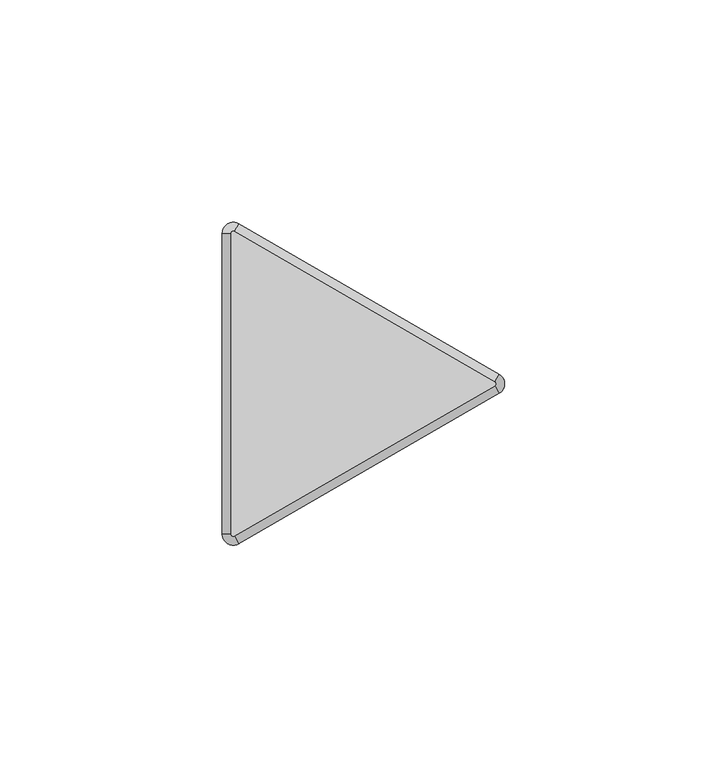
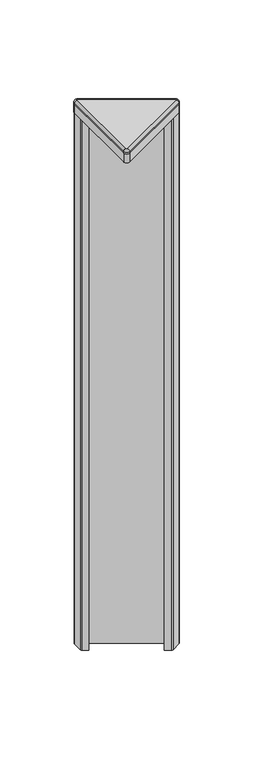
"""IFC4 building model written with IfcOpenShell, lengths in millimetres: furniture geometry, Steelcase - Answer Solution - Panel - 120deg Change-of-Height Trim - Thin : V Corner - 18H for 84H App."""

from ifc_helpers import new_model, si_unit, point, frame, frame_2d, origin, place, context, project, spatial, polyline, circle_curve, ellipse_curve, trimmed, segment, composite_curve, outline, extrude, source, transform, mapped, element, save
from ifc_brep_helpers import plane_surface, cylinder_surface, revolved_surface, advanced_brep


def furniture_275afc60(model_context):
    return source(origin(), model_context, "Body", "SolidModel", [
        advanced_brep(
        [(-10.518645, -37.3335529, 2138.0628978), (-14.2052101, -35.2051135, 2138.0628978), (-14.2052101, -35.2051135, 2137.1164663), (-10.518645, -37.3335529, 2137.1164663), (-11.46175, -35.7000471, 2139.95), (-12.319, -35.2051135, 2139.95), (-11.46175, -35.7000471, 2137.1164663), (-12.319, -35.2051135, 2137.1164663), (48.0429908, -3.5229767, 2137.1164663), (48.0429908, -3.5229767, 2138.0628978), (47.0998858, -1.8894709, 2139.95), (47.0998858, -1.8894709, 2137.1164663), (48.0429908, 0.733902, 2138.0628978), (48.0429908, 0.733902, 2137.1164663), (47.0998858, -0.8996038, 2139.95), (47.0998858, -0.8996038, 2137.1164663), (-10.518645, 34.5444782, 2137.1164663), (-14.2052101, 32.4160388, 2137.1164663), (-11.46175, 32.9109723, 2137.1164663), (-12.319, 32.4160388, 2137.1164663), (-10.518645, 34.5444782, 2138.0628978), (-11.46175, 32.9109723, 2139.95), (-14.2052101, 32.4160388, 2138.0628978), (-12.319, 32.4160388, 2139.95)],
        [
            (0, 1, circle_curve(frame((-11.7475, -35.2051135, 2138.0628978), z_axis=(0.0, 0.0, -1.0), x_axis=(-1.0, 0.0, 0.0)), 2.4577101)),
            (1, 2),
            (2, 3, circle_curve(frame((-11.7475, -35.2051135, 2137.1164663), z_axis=(0.0, 0.0, 1.0), x_axis=(-1.0, 0.0, 0.0)), 2.4577101)),
            (3, 0),
            (4, 5, circle_curve(frame((-11.7475, -35.2051135, 2139.95), z_axis=(0.0, 0.0, -1.0), x_axis=(-1.0, 0.0, 0.0)), 0.5715)),
            (5, 1, circle_curve(frame((-12.3181076, -35.2051135, 2138.0628978), z_axis=(0.0, -1.0, 0.0), x_axis=(1.0, 0.0, 0.0)), 1.8871024)),
            (0, 4, circle_curve(frame((-11.4621962, -35.6992743, 2138.0628978), z_axis=(-0.8660254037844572, -0.49999999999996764, 0.0), x_axis=(-0.49999999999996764, 0.8660254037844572, 0.0)), 1.8871024)),
            (6, 7, circle_curve(frame((-11.7475, -35.2051135, 2137.1164663), z_axis=(0.0, 0.0, -1.0), x_axis=(-1.0, 0.0, 0.0)), 0.5715)),
            (7, 5),
            (4, 6),
            (3, 8),
            (8, 9),
            (9, 0),
            (9, 10, circle_curve(frame((47.0994396, -1.8886981, 2138.0628978), z_axis=(-0.8660254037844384, -0.5000000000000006, 0.0), x_axis=(-0.5000000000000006, 0.8660254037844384, 0.0)), 1.8871024)),
            (10, 4),
            (10, 11),
            (11, 6),
            (12, 9, circle_curve(frame((46.8141358, -1.3945374, 2138.0628978), z_axis=(0.0, 0.0, -1.0), x_axis=(0.4999999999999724, -0.8660254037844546, 0.0)), 2.4577101)),
            (8, 13, circle_curve(frame((46.8141358, -1.3945374, 2137.1164663), z_axis=(0.0, 0.0, 1.0), x_axis=(0.4999999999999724, -0.8660254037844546, 0.0)), 2.4577101)),
            (13, 12),
            (14, 10, circle_curve(frame((46.8141358, -1.3945374, 2139.95), z_axis=(0.0, 0.0, -1.0), x_axis=(0.4999999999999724, -0.8660254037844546, 0.0)), 0.5715)),
            (12, 14, circle_curve(frame((47.0994396, -0.9003766, 2138.0628978), z_axis=(0.8660254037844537, -0.49999999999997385, 0.0), x_axis=(-0.49999999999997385, -0.8660254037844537, 0.0)), 1.8871024)),
            (15, 11, circle_curve(frame((46.8141358, -1.3945374, 2137.1164663), z_axis=(0.0, 0.0, -1.0), x_axis=(0.4999999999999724, -0.8660254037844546, 0.0)), 0.5715)),
            (14, 15),
            (16, 13),
            (2, 17),
            (17, 16, circle_curve(frame((-11.7475, 32.4160388, 2137.1164663), z_axis=(0.0, 0.0, -1.0), x_axis=(0.500000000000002, 0.8660254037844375, 0.0)), 2.4577101)),
            (15, 18),
            (18, 19, circle_curve(frame((-11.7475, 32.4160388, 2137.1164663), z_axis=(0.0, 0.0, 1.0), x_axis=(0.500000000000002, 0.8660254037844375, 0.0)), 0.5715)),
            (19, 7),
            (16, 20),
            (20, 12),
            (20, 21, circle_curve(frame((-11.4621962, 32.9101995, 2138.0628978), z_axis=(0.8660254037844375, -0.5000000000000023, 0.0), x_axis=(-0.5000000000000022, -0.8660254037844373, 0.0)), 1.8871024)),
            (21, 14),
            (21, 18),
            (22, 20, circle_curve(frame((-11.7475, 32.4160388, 2138.0628978), z_axis=(0.0, 0.0, -1.0), x_axis=(0.500000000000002, 0.8660254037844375, 0.0)), 2.4577101)),
            (17, 22),
            (23, 21, circle_curve(frame((-11.7475, 32.4160388, 2139.95), z_axis=(0.0, 0.0, -1.0), x_axis=(0.500000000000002, 0.8660254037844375, 0.0)), 0.5715)),
            (22, 23, circle_curve(frame((-12.3181076, 32.4160388, 2138.0628978), z_axis=(0.0, 1.0, 0.0), x_axis=(1.0, 0.0, 0.0)), 1.8871024)),
            (23, 19),
            (1, 22),
            (5, 23),
        ],
        [
            cylinder_surface(frame((-11.7475, -35.2051135, 0.0), z_axis=(0.0, 0.0, 1.0), x_axis=(-1.0, 0.0, 0.0)), 2.4577101),
            revolved_surface(trimmed(ellipse_curve(frame((-12.3181076, -35.2051135, 2138.0628978), z_axis=(0.0, 1.0, 0.0), x_axis=(1.0, 0.0, 0.0)), 1.8871024, 1.8871024), [point((-14.2052101, -35.2051135, 2138.0628978))], [point((-12.319, -35.2051135, 2139.95))], True, "CARTESIAN"), (-11.7475, -35.2051135, 0.0), (0.0, 0.0, 1.0)),
            revolved_surface(polyline([(-12.319, -35.2051135, 2139.95), (-12.319, -35.2051135, 2137.1164663)]), (-11.7475, -35.2051135, 0.0), (0.0, 0.0, 1.0)),
            plane_surface(frame((-10.518645, -37.3335529, 2137.1164663), z_axis=(0.49999999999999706, -0.8660254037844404, 0.0), x_axis=(0.8660254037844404, 0.49999999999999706, 0.0))),
            cylinder_surface(frame((-11.4621962, -35.6992743, 2138.0628978), z_axis=(-0.8660254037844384, -0.5000000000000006, 0.0), x_axis=(-0.5000000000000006, 0.8660254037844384, 0.0)), 1.8871024),
            plane_surface(frame((-11.46175, -35.7000471, 2139.95), z_axis=(-0.500000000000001, 0.8660254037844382, 0.0), x_axis=(0.8660254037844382, 0.500000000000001, 0.0))),
            cylinder_surface(frame((46.8141358, -1.3945374, 0.0), z_axis=(0.0, 0.0, 1.0), x_axis=(0.4999999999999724, -0.8660254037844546, 0.0)), 2.4577101),
            revolved_surface(trimmed(ellipse_curve(frame((47.0994396, -1.8886981, 2138.0628978), z_axis=(-0.8660254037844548, -0.499999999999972, 0.0), x_axis=(-0.499999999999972, 0.8660254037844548, 0.0)), 1.8871024, 1.8871024), [point((48.0429908, -3.5229767, 2138.0628978))], [point((47.0998858, -1.8894709, 2139.95))], True, "CARTESIAN"), (46.8141358, -1.3945374, 0.0), (0.0, 0.0, 1.0)),
            revolved_surface(polyline([(47.09988579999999, -1.8894709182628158, 2139.95), (47.09988579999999, -1.8894709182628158, 2137.1164663)]), (46.8141358, -1.3945374, 0.0), (0.0, 0.0, 1.0)),
            plane_surface(frame((47.0998858, -0.8996038, 2137.1164663), z_axis=(0.0, 0.0, -1.0), x_axis=(-0.8660254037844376, 0.5000000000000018, 0.0))),
            plane_surface(frame((48.0429908, 0.733902, 2137.1164663), z_axis=(0.49999999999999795, 0.8660254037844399, 0.0), x_axis=(-0.8660254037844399, 0.49999999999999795, 0.0))),
            cylinder_surface(frame((47.0994396, -0.9003766, 2138.0628978), z_axis=(0.8660254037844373, -0.5000000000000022, 0.0), x_axis=(-0.5000000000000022, -0.8660254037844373, 0.0)), 1.8871024),
            plane_surface(frame((47.0998858, -0.8996038, 2139.95), z_axis=(-0.5000000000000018, -0.8660254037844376, 0.0), x_axis=(-0.8660254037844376, 0.5000000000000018, 0.0))),
            cylinder_surface(frame((-11.7475, 32.4160388, 0.0), z_axis=(0.0, 0.0, 1.0), x_axis=(0.500000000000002, 0.8660254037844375, 0.0)), 2.4577101),
            revolved_surface(trimmed(ellipse_curve(frame((-11.4621962, 32.9101995, 2138.0628978), z_axis=(0.866025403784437, -0.5000000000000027, 0.0), x_axis=(-0.5000000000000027, -0.866025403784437, 0.0)), 1.8871024, 1.8871024), [point((-10.518645, 34.5444782, 2138.0628978))], [point((-11.46175, 32.9109723, 2139.95))], True, "CARTESIAN"), (-11.7475, 32.4160388, 0.0), (0.0, 0.0, 1.0)),
            revolved_surface(polyline([(-11.461749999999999, 32.91097231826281, 2139.95), (-11.461749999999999, 32.91097231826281, 2137.1164663)]), (-11.7475, 32.4160388, 0.0), (0.0, 0.0, 1.0)),
            plane_surface(frame((-14.2052101, 32.4160388, 2137.1164663), z_axis=(-1.0, 0.0, 0.0), x_axis=(0.0, -1.0, 0.0))),
            cylinder_surface(frame((-12.3181076, 32.4160388, 2138.0628978), z_axis=(0.0, 1.0, 0.0), x_axis=(1.0, 0.0, 0.0)), 1.8871024),
            plane_surface(frame((-12.319, 32.4160388, 2139.95), z_axis=(1.0, 0.0, 0.0), x_axis=(0.0, -1.0, 0.0))),
        ],
        [
            (0, [[1, 2, 3, 4]]),
            (1, [[5, 6, -1, 7]]),
            (2, [[8, 9, -5, 10]]),
            (3, [[-4, 11, 12, 13]]),
            (4, [[-7, -13, 14, 15]]),
            (5, [[-10, -15, 16, 17]]),
            (6, [[18, -12, 19, 20]]),
            (7, [[21, -14, -18, 22]]),
            (8, [[23, -16, -21, 24]]),
            (9, [[25, -19, -11, -3, 26, 27], [-8, -17, -23, 28, 29, 30]]),
            (10, [[-20, -25, 31, 32]]),
            (11, [[-22, -32, 33, 34]]),
            (12, [[-24, -34, 35, -28]]),
            (13, [[36, -31, -27, 37]]),
            (14, [[38, -33, -36, 39]]),
            (15, [[-29, -35, -38, 40]]),
            (16, [[-37, -26, -2, 41]]),
            (17, [[-39, -41, -6, 42]]),
            (18, [[-40, -42, -9, -30]]),
        ],
    ),
        extrude(outline(composite_curve([segment(trimmed(circle_curve(frame_2d((46.8261011, -1.3945374)), 0.5655173), [point((47.1088598, -0.904785))], [point((47.1088598, -1.8842897))], False, "CARTESIAN"), True, "CONTINUOUS"), segment(polyline([(47.1088598, -1.8842897), (-11.4505119, -35.6935587)]), True, "CONTINUOUS"), segment(trimmed(circle_curve(frame_2d((-11.7400079, -35.1921369)), 0.5789921), [point((-11.4505119, -35.6935587))], [point((-12.319, -35.1921369))], False, "CARTESIAN"), True, "CONTINUOUS"), segment(polyline([(-12.319, -35.1921369), (-12.319, 32.3985888)]), True, "CONTINUOUS"), segment(trimmed(circle_curve(frame_2d((-11.7374252, 32.3985888)), 0.5815748), [point((-12.319, 32.3985888))], [point((-11.4466378, 32.9022473))], False, "CARTESIAN"), True, "CONTINUOUS"), segment(polyline([(-11.4466378, 32.9022473), (47.1088598, -0.904785)]), True, "CONTINUOUS")], self_intersect=False)), frame((0.0, 0.0, 2137.1164663), z_axis=(0.0, 0.0, 1.0), x_axis=(1.0, 0.0, 0.0)), (0.0, 0.0, 1.0), 2.8335337),
        extrude(outline(composite_curve([segment(trimmed(circle_curve(frame_2d((47.9608454, -1.3945374)), 1.2935425), [point((48.6076166, -0.2742967))], [point((48.6076166, -2.514778))], False, "CARTESIAN"), True, "CONTINUOUS"), segment(polyline([(48.6076166, -2.514778), (41.722656, -6.4898119)]), True, "CONTINUOUS"), segment(trimmed(circle_curve(frame_2d((41.0991304, -5.4098338)), 1.2470513), [point((41.722656, -6.4898119))], [point((40.4756048, -6.4898119))], False, "CARTESIAN"), True, "CONTINUOUS"), segment(polyline([(40.4756048, -6.4898119), (36.3239304, -4.0928416), (36.7811304, -3.300948), (41.0991304, -5.7939464), (47.3502407, -2.1848662)]), True, "CONTINUOUS"), segment(trimmed(circle_curve(frame_2d((46.8939441, -1.3945374)), 0.9125932), [point((47.3502407, -2.1848662))], [point((47.3502407, -0.6042085))], True, "CARTESIAN"), True, "CONTINUOUS"), segment(polyline([(47.3502407, -0.6042085), (-11.3312768, 33.2755814)]), True, "CONTINUOUS"), segment(trimmed(circle_curve(frame_2d((-11.7875179, 32.4853487)), 0.9124821), [point((-11.3312768, 33.2755814))], [point((-12.7, 32.4853487))], True, "CARTESIAN"), True, "CONTINUOUS"), segment(polyline([(-12.7, 32.4853487), (-12.7, 25.266996), (-8.382, 22.7739975), (-8.8392, 21.9821039), (-12.9583282, 24.3602837)]), True, "CONTINUOUS"), segment(trimmed(circle_curve(frame_2d((-12.3022565, 25.4966333)), 1.3121435), [point((-12.9583282, 24.3602837))], [point((-13.6144, 25.4966333))], False, "CARTESIAN"), True, "CONTINUOUS"), segment(polyline([(-13.6144, 25.4966333), (-13.6144, 33.3957138)]), True, "CONTINUOUS"), segment(trimmed(circle_curve(frame_2d((-12.3131174, 33.3957138)), 1.3012826), [point((-13.6144, 33.3957138))], [point((-11.6624761, 34.5226576))], False, "CARTESIAN"), True, "CONTINUOUS"), segment(polyline([(-11.6624761, 34.5226576), (48.6076166, -0.2742967)]), True, "CONTINUOUS")], self_intersect=False)), frame((0.0, 0.0, 1682.75), z_axis=(0.0, 0.0, 1.0), x_axis=(1.0, 0.0, 0.0)), (0.0, 0.0, 1.0), 447.04),
        extrude(outline(composite_curve([segment(trimmed(circle_curve(frame_2d((46.8140443, -1.3945374)), 2.4577558), [point((48.0429222, 0.7339416))], [point((48.0429222, -3.5230163))], False, "CARTESIAN"), True, "CONTINUOUS"), segment(polyline([(48.0429222, -3.5230163), (-10.518058, -37.333214)]), True, "CONTINUOUS"), segment(trimmed(circle_curve(frame_2d((-11.7471087, -35.2044357)), 2.4581014), [point((-10.518058, -37.333214))], [point((-14.2052101, -35.2044357))], False, "CARTESIAN"), True, "CONTINUOUS"), segment(polyline([(-14.2052101, -35.2044357), (-14.2052101, 32.4160388)]), True, "CONTINUOUS"), segment(trimmed(circle_curve(frame_2d((-11.7475, 32.4160388)), 2.4577101), [point((-14.2052101, 32.4160388))], [point((-10.518645, 34.5444782))], False, "CARTESIAN"), True, "CONTINUOUS"), segment(polyline([(-10.518645, 34.5444782), (48.0429222, 0.7339416)]), True, "CONTINUOUS")], self_intersect=False)), frame((0.0, 0.0, 2129.79), z_axis=(0.0, 0.0, 1.0), x_axis=(1.0, 0.0, 0.0)), (0.0, 0.0, 1.0), 7.3264663),
    ])


if __name__ == "__main__":
    model = new_model("IFC4")
    model_context = context("Model", 3, world=origin())
    ifc_project = project(units=[si_unit("LENGTHUNIT", "METRE", prefix="MILLI")], contexts=[model_context])
    site = spatial("IfcSite", under=ifc_project)
    building = spatial("IfcBuilding", under=site)
    placement = place(None, origin())
    furniture_shape = furniture_275afc60(model_context)
    element("IfcFurniture", 1, ObjectType="Steelcase - Answer Solution - Panel - 120deg Change-of-Height Trim - Thin : V Corner - 18H for 84H App", at=placement, inside=building, context=model_context, shape_type="MappedRepresentation", body=[
        mapped(furniture_shape, transform((0.0, 0.0, 0.0), x_axis=(1.0, 0.0, 0.0), y_axis=(0.0, 1.0, 0.0), z_axis=(0.0, 0.0, 1.0))),
    ])
    save(model, "model.ifc")
